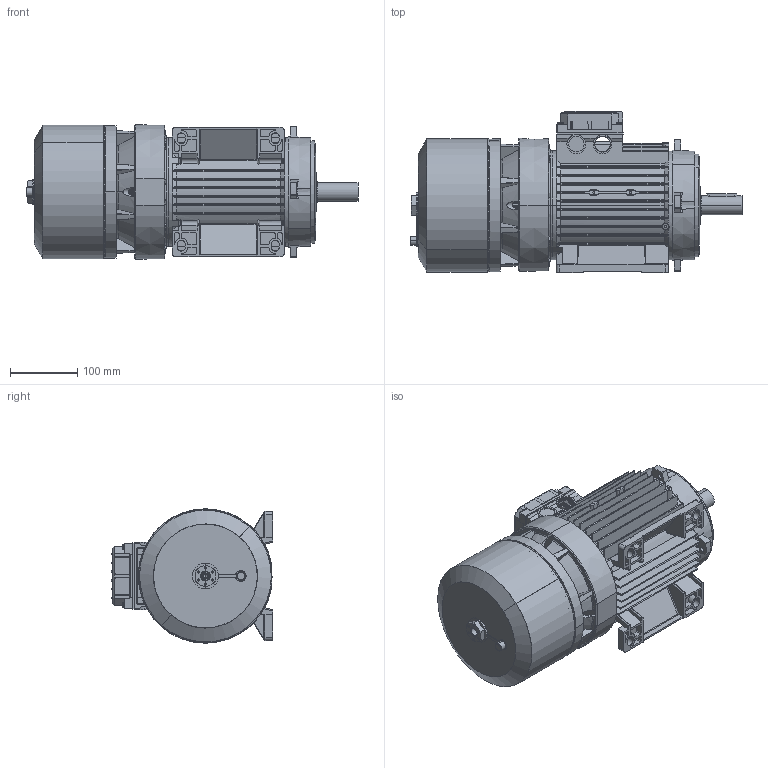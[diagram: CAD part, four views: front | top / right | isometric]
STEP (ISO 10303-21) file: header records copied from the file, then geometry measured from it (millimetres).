
FILE_DESCRIPTION (( 'STEP AP214' ), '1' );
FILE_NAME ('M02GA0010.STEP', '2018-11-26T16:35:53', ( '' ), ( '' ), 'SwSTEP 2.0', 'SolidWorks 2018', '' );
FILE_SCHEMA (( 'AUTOMOTIVE_DESIGN' ));
Length unit declared in the file: millimetre
Products named in the file (14): Vite a Testa Esagona con foro e tappo 71-112 - Modificata; Scudo Lato Comando B3 BA-BM 100 - DEAD0094; Chiavetta 100-112; Cuffia serie BA 100; Convogliatore con pista d''attrito P2 BA100-6 - DEAF0195; Scudo Lato Freno BA 100 P1 - DEAE0194; Albero BA 100; Carcassa 100 L B3; M02GA0010; Anello per Gruppo Freno 100 - DBAU0294; Coperchio per Scatola Singola 90 - 100 - 112 con viti; Guarnizione Coperchio Semplice Scatola BA 90 100 112 - DDAL0094; Vite per coperchio morsettiera; Coperchio per Scatola Singola 90 - 100 - 112
Assembly tree (16 placements, depth 3):
  M02GA0010
    Carcassa 100 L B3
    Albero BA 100
    Scudo Lato Freno BA 100 P1 - DEAE0194
    Convogliatore con pista d''attrito P2 BA100-6 - DEAF0195
    Cuffia serie BA 100
    Chiavetta 100-112
    Scudo Lato Comando B3 BA-BM 100 - DEAD0094
    Vite a Testa Esagona con foro e tappo 71-112 - Modificata
    Coperchio per Scatola Singola 90 - 100 - 112 con viti
      Coperchio per Scatola Singola 90 - 100 - 112
      Vite per coperchio morsettiera  x4
      Guarnizione Coperchio Semplice Scatola BA 90 100 112 - DDAL0094
    Anello per Gruppo Freno 100 - DBAU0294
Bounding box: 494 x 240 x 199.95 mm (x, y, z)
Volume: 2150291.2 mm3; surface area: 1156089.4 mm2
Topology: 15 solids, 15 shells, 2979 faces, 8192 edges, 5234 vertices
Faces by surface type: plane 1075, cylinder 972, torus 387, cone 345, bspline 196, sphere 4
Entity records: 106538 total; most frequent: CARTESIAN_POINT 36069, ORIENTED_EDGE 15468, DIRECTION 13587, EDGE_CURVE 7734, AXIS2_PLACEMENT_3D 5159, VERTEX_POINT 5000, VECTOR 3269, LINE 3269
